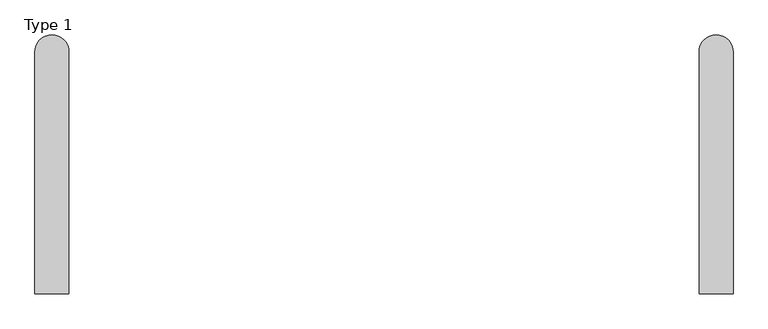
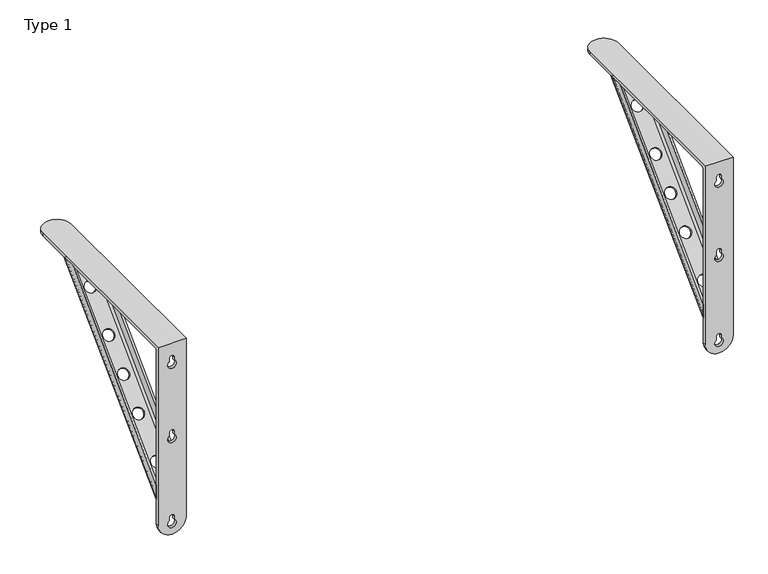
"""IFC4 building model written with IfcOpenShell, lengths in millimetres: furniture geometry, Roros Produkter - Nobel - Bench - Wall - 32650 : Type 1."""

from ifc_helpers import new_model, si_unit, frame, origin, place, context, project, spatial, polyline, circle_curve, ellipse_curve, source, transform, mapped, element, save
from ifc_brep_helpers import plane_surface, cylinder_surface, revolved_surface, advanced_brep


def type_1_918a97a2(model_context):
    return source(origin(), model_context, "Body", "AdvancedBrep", [
        advanced_brep(
        [(-831.9999922, 372.3279231, 368.5858677), (-867.9999922, 372.3279231, 368.5858677), (-872.8988696, 370.9137803, 370.0000106), (-827.1011148, 370.9137803, 370.0000106), (-867.9999922, 83.8283564, 84.3289417), (-871.9999922, 80.9999293, 87.1573688), (-874.9999922, 81.0, 87.1572981), (-867.9999922, 85.9496768, 82.2076214), (-831.9999922, 85.9496768, 82.2076214), (-824.9999922, 80.9999293, 87.1573688), (-827.9999922, 81.0, 87.1572981), (-831.9999922, 83.8283564, 84.3289417), (-867.9999922, 369.4994253, 370.0000106), (-871.9999922, 363.8425711, 370.0000106), (-871.9999922, 338.3867269, 370.0000106), (-871.9999922, 81.0, 112.6132837), (-874.9999922, 338.3867269, 370.0000106), (-874.9999922, 81.0, 112.6132837), (-874.9999922, 363.8425711, 370.0000106), (-860.0951875, 329.9749906, 326.2329352), (-840.0951875, 329.9749906, 326.2329352), (-860.0951875, 273.3273962, 269.5853408), (-840.0951875, 273.3273962, 269.5853408), (-860.0951875, 227.3654554, 223.6234), (-840.0951875, 227.3654554, 223.6234), (-860.0951875, 181.3935431, 177.6514877), (-840.0951875, 181.3935431, 177.6514877), (-860.0951875, 124.8524127, 121.1103573), (-840.0951875, 124.8524127, 121.1103573), (-824.9999922, 363.8425711, 370.0000106), (-824.9999922, 338.3867269, 370.0000106), (-824.9999922, 81.0, 112.6132837), (-827.9999922, 338.3867269, 370.0000106), (-827.9999922, 81.0, 112.6132837), (-827.9999922, 363.8425711, 370.0000106), (-831.9999922, 369.4994253, 370.0000106), (-840.0951875, 327.8536702, 328.3542555), (-860.0951875, 327.8536702, 328.3542555), (-840.0951875, 271.2060759, 271.7066611), (-860.0951875, 271.2060759, 271.7066611), (-840.0951875, 225.2441351, 225.7447204), (-860.0951875, 225.2441351, 225.7447204), (-840.0951875, 179.2722228, 179.772808), (-860.0951875, 179.2722228, 179.772808), (-840.0951875, 122.7310923, 123.2316776), (-860.0951875, 122.7310923, 123.2316776)],
        [
            (0, 1),
            (1, 2, circle_curve(frame((-867.9999922, 367.3781757, 373.5356152), z_axis=(0.0, 0.707106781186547, 0.7071067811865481), x_axis=(0.0, -0.7071067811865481, 0.707106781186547)), 7.0)),
            (2, 3),
            (3, 0, circle_curve(frame((-831.9999922, 367.3781757, 373.5356152), z_axis=(0.0, 0.707106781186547, 0.7071067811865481), x_axis=(0.0, -0.7071067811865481, 0.707106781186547)), 7.0)),
            (4, 5, circle_curve(frame((-867.9999922, 80.9999293, 87.1573688), z_axis=(0.0, 0.707106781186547, 0.7071067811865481), x_axis=(0.0, -0.7071067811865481, 0.707106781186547)), 4.0)),
            (5, 6),
            (6, 7, circle_curve(frame((-867.9999922, 80.9999293, 87.1573688), z_axis=(0.0, -0.707106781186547, -0.7071067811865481), x_axis=(0.0, -0.7071067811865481, 0.707106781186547)), 7.0)),
            (7, 8),
            (8, 9, circle_curve(frame((-831.9999922, 80.9999293, 87.1573688), z_axis=(0.0, -0.707106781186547, -0.7071067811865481), x_axis=(0.0, -0.7071067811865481, 0.707106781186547)), 7.0)),
            (9, 10),
            (10, 11, circle_curve(frame((-831.9999922, 80.9999293, 87.1573688), z_axis=(0.0, 0.707106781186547, 0.7071067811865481), x_axis=(0.0, -0.7071067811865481, 0.707106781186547)), 4.0)),
            (11, 4),
            (4, 12),
            (12, 13, ellipse_curve(frame((-867.9999922, 363.8425711, 370.0000106), z_axis=(0.0, 0.0, 1.0), x_axis=(0.0, -1.0, 0.0)), 5.6568542, 4.0)),
            (13, 5),
            (13, 14),
            (14, 15),
            (15, 5),
            (14, 16),
            (16, 17),
            (17, 15),
            (16, 18),
            (18, 6),
            (6, 17),
            (0, 8),
            (7, 1),
            (19, 20, circle_curve(frame((-850.0951875, 329.9749906, 326.2329352), z_axis=(0.0, -0.7071067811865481, 0.7071067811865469), x_axis=(1.0, 0.0, 0.0)), 10.0)),
            (20, 19, circle_curve(frame((-850.0951875, 329.9749906, 326.2329352), z_axis=(0.0, -0.7071067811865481, 0.7071067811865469), x_axis=(1.0, 0.0, 0.0)), 10.0)),
            (21, 22, circle_curve(frame((-850.0951875, 273.3273962, 269.5853408), z_axis=(0.0, -0.7071067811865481, 0.7071067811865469), x_axis=(1.0, 0.0, 0.0)), 10.0)),
            (22, 21, circle_curve(frame((-850.0951875, 273.3273962, 269.5853408), z_axis=(0.0, -0.7071067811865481, 0.7071067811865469), x_axis=(1.0, 0.0, 0.0)), 10.0)),
            (23, 24, circle_curve(frame((-850.0951875, 227.3654554, 223.6234), z_axis=(0.0, -0.7071067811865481, 0.7071067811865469), x_axis=(1.0, 0.0, 0.0)), 10.0)),
            (24, 23, circle_curve(frame((-850.0951875, 227.3654554, 223.6234), z_axis=(0.0, -0.7071067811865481, 0.7071067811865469), x_axis=(1.0, 0.0, 0.0)), 10.0)),
            (25, 26, circle_curve(frame((-850.0951875, 181.3935431, 177.6514877), z_axis=(0.0, -0.7071067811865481, 0.7071067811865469), x_axis=(1.0, 0.0, 0.0)), 10.0)),
            (26, 25, circle_curve(frame((-850.0951875, 181.3935431, 177.6514877), z_axis=(0.0, -0.7071067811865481, 0.7071067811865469), x_axis=(1.0, 0.0, 0.0)), 10.0)),
            (27, 28, circle_curve(frame((-850.0951875, 124.8524127, 121.1103573), z_axis=(0.0, -0.7071067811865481, 0.7071067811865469), x_axis=(1.0, 0.0, 0.0)), 10.0)),
            (28, 27, circle_curve(frame((-850.0951875, 124.8524127, 121.1103573), z_axis=(0.0, -0.7071067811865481, 0.7071067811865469), x_axis=(1.0, 0.0, 0.0)), 10.0)),
            (3, 29, ellipse_curve(frame((-831.9999922, 363.8425711, 370.0000106), z_axis=(0.0, 0.0, -1.0), x_axis=(0.0, 1.0, 0.0)), 9.8994949, 7.0)),
            (29, 9),
            (29, 30),
            (30, 31),
            (31, 9),
            (30, 32),
            (32, 33),
            (33, 31),
            (32, 34),
            (34, 10),
            (10, 33),
            (34, 35, ellipse_curve(frame((-831.9999922, 363.8425711, 370.0000106), z_axis=(0.0, 0.0, 1.0), x_axis=(0.0, -1.0, 0.0)), 5.6568542, 4.0)),
            (35, 11),
            (35, 12),
            (36, 37, circle_curve(frame((-850.0951875, 327.8536702, 328.3542555), z_axis=(0.0, 0.7071067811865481, -0.7071067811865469), x_axis=(1.0, 0.0, 0.0)), 10.0)),
            (37, 36, circle_curve(frame((-850.0951875, 327.8536702, 328.3542555), z_axis=(0.0, 0.7071067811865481, -0.7071067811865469), x_axis=(1.0, 0.0, 0.0)), 10.0)),
            (38, 39, circle_curve(frame((-850.0951875, 271.2060759, 271.7066611), z_axis=(0.0, 0.7071067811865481, -0.7071067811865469), x_axis=(1.0, 0.0, 0.0)), 10.0)),
            (39, 38, circle_curve(frame((-850.0951875, 271.2060759, 271.7066611), z_axis=(0.0, 0.7071067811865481, -0.7071067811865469), x_axis=(1.0, 0.0, 0.0)), 10.0)),
            (40, 41, circle_curve(frame((-850.0951875, 225.2441351, 225.7447204), z_axis=(0.0, 0.7071067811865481, -0.7071067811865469), x_axis=(1.0, 0.0, 0.0)), 10.0)),
            (41, 40, circle_curve(frame((-850.0951875, 225.2441351, 225.7447204), z_axis=(0.0, 0.7071067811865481, -0.7071067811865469), x_axis=(1.0, 0.0, 0.0)), 10.0)),
            (42, 43, circle_curve(frame((-850.0951875, 179.2722228, 179.772808), z_axis=(0.0, 0.7071067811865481, -0.7071067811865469), x_axis=(1.0, 0.0, 0.0)), 10.0)),
            (43, 42, circle_curve(frame((-850.0951875, 179.2722228, 179.772808), z_axis=(0.0, 0.7071067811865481, -0.7071067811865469), x_axis=(1.0, 0.0, 0.0)), 10.0)),
            (44, 45, circle_curve(frame((-850.0951875, 122.7310923, 123.2316776), z_axis=(0.0, 0.7071067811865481, -0.7071067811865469), x_axis=(1.0, 0.0, 0.0)), 10.0)),
            (45, 44, circle_curve(frame((-850.0951875, 122.7310923, 123.2316776), z_axis=(0.0, 0.7071067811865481, -0.7071067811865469), x_axis=(1.0, 0.0, 0.0)), 10.0)),
            (18, 2, ellipse_curve(frame((-867.9999922, 363.8425711, 370.0000106), z_axis=(0.0, 0.0, -1.0), x_axis=(0.0, 1.0, 0.0)), 9.8994949, 7.0)),
            (36, 20),
            (19, 37),
            (38, 22),
            (21, 39),
            (40, 24),
            (23, 41),
            (42, 26),
            (25, 43),
            (44, 28),
            (27, 45),
        ],
        [
            plane_surface(frame((-831.9998922, 370.2066028, 370.7071881), z_axis=(0.0, 0.707106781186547, 0.7071067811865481), x_axis=(1.0, 0.0, 0.0))),
            plane_surface(frame((-831.9998922, 83.8283564, 84.3289417), z_axis=(0.0, -0.707106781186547, -0.7071067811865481), x_axis=(-1.0, 0.0, 0.0))),
            revolved_surface(polyline([(-867.9999922, 78.1715021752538, 89.98579592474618), (-867.9999922, 363.84257107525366, 375.6568648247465)]), (-867.9999922, 80.9999293, 87.1573688), (0.0, -0.707106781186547, -0.7071067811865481)),
            plane_surface(frame((-871.9999922, 354.6502536, 386.2635373), z_axis=(1.0, 0.0, 0.0), x_axis=(0.0, -0.7071067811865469, -0.7071067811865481))),
            plane_surface(frame((-874.9999922, 354.6502536, 386.2635373), z_axis=(0.0, -0.707106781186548, 0.707106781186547), x_axis=(0.0, -0.707106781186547, -0.707106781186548))),
            plane_surface(frame((-874.9999922, 367.3781757, 373.5356152), z_axis=(-1.0000000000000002, 0.0, 0.0), x_axis=(0.0, -0.707106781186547, -0.7071067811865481))),
            plane_surface(frame((-831.9999922, 372.3279231, 368.5858677), z_axis=(0.0, 0.7071067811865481, -0.7071067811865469), x_axis=(0.0, -0.7071067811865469, -0.7071067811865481))),
            cylinder_surface(frame((-831.9999922, 80.9999293, 87.1573688), z_axis=(0.0, 0.707106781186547, 0.7071067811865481), x_axis=(0.0, -0.7071067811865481, 0.707106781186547)), 7.0),
            plane_surface(frame((-824.9999922, 354.6502536, 386.2635373), z_axis=(1.0, 0.0, 0.0), x_axis=(0.0, -0.707106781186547, -0.707106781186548))),
            plane_surface(frame((-827.9999922, 354.6502536, 386.2635373), z_axis=(0.0, -0.7071067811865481, 0.7071067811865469), x_axis=(0.0, -0.7071067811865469, -0.7071067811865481))),
            plane_surface(frame((-827.9999922, 367.3781757, 373.5356152), z_axis=(-1.0, 0.0, 0.0), x_axis=(0.0, -0.7071067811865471, -0.707106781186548))),
            revolved_surface(polyline([(-831.9999922, 78.1715021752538, 89.98579592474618), (-831.9999922, 363.84257107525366, 375.6568648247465)]), (-831.9999922, 80.9999293, 87.1573688), (0.0, -0.707106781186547, -0.7071067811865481)),
            plane_surface(frame((-867.9999922, 370.2066028, 370.7071881), z_axis=(0.0, -0.7071067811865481, 0.7071067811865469), x_axis=(0.0, -0.7071067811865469, -0.7071067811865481))),
            cylinder_surface(frame((-867.9999922, 80.9999293, 87.1573688), z_axis=(0.0, 0.707106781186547, 0.7071067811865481), x_axis=(0.0, -0.7071067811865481, 0.707106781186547)), 7.0),
            revolved_surface(polyline([(-840.0951875, 329.9749906, 326.2329352), (-840.0951875, 327.85367025, 328.35425555)]), (-850.0951875, 317.3539543, 338.8539715), (0.0, 0.7071067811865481, -0.7071067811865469)),
            revolved_surface(polyline([(-840.0951875, 273.3273962, 269.5853408), (-840.0951875, 271.2060759, 271.7066611)]), (-850.0951875, 273.3273962, 269.5853408), (0.0, 0.7071067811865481, -0.7071067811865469)),
            revolved_surface(polyline([(-840.0951875, 227.3654554, 223.6234), (-840.0951875, 225.24413504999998, 225.74472035)]), (-850.0951875, 227.3654554, 223.6234), (0.0, 0.7071067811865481, -0.7071067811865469)),
            revolved_surface(polyline([(-840.0951875, 181.3935431, 177.6514877), (-840.0951875, 179.27222279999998, 179.77280799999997)]), (-850.0951875, 181.3935431, 177.6514877), (0.0, 0.7071067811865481, -0.7071067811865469)),
            revolved_surface(polyline([(-840.0951875, 124.8524127, 121.1103573), (-840.0951875, 122.73109235, 123.23167765)]), (-850.0951875, 124.8524127, 121.1103573), (0.0, 0.7071067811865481, -0.7071067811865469)),
            plane_surface(frame((-946.6643977, 81.0, 130.0000106), z_axis=(0.0, -1.0, 0.0), x_axis=(1.0, 0.0, 0.0))),
            plane_surface(frame((-946.6643977, 376.8148919, 370.0000106), z_axis=(0.0, 0.0, 1.0), x_axis=(1.0, 0.0, 0.0))),
        ],
        [
            (0, [[1, 2, 3, 4]]),
            (1, [[5, 6, 7, 8, 9, 10, 11, 12]]),
            (2, [[-5, 13, 14, 15]]),
            (3, [[-15, 16, 17, 18]]),
            (4, [[-17, 19, 20, 21]]),
            (5, [[-20, 22, 23, 24]]),
            (6, [[-1, 25, -8, 26], [27, 28], [29, 30], [31, 32], [33, 34], [35, 36]]),
            (7, [[-9, -25, -4, 37, 38]]),
            (8, [[-38, 39, 40, 41]]),
            (9, [[-40, 42, 43, 44]]),
            (10, [[-43, 45, 46, 47]]),
            (11, [[-11, -46, 48, 49]]),
            (12, [[-12, -49, 50, -13], [51, 52], [53, 54], [55, 56], [57, 58], [59, 60]]),
            (13, [[-7, -23, 61, -2, -26]]),
            (14, [[62, -27, 63, -51]]),
            (14, [[-62, -52, -63, -28]]),
            (15, [[64, -29, 65, -53]]),
            (15, [[-64, -54, -65, -30]]),
            (16, [[66, -31, 67, -55]]),
            (16, [[-66, -56, -67, -32]]),
            (17, [[68, -33, 69, -57]]),
            (17, [[-68, -58, -69, -34]]),
            (18, [[70, -35, 71, -59]]),
            (18, [[-70, -60, -71, -36]]),
            (19, [[-6, -18, -21, -24]]),
            (19, [[-10, -41, -44, -47]]),
            (20, [[-3, -61, -22, -19, -16, -14, -50, -48, -45, -42, -39, -37]]),
        ],
    ),
        advanced_brep(
        [(-824.9999922, 81.0, 365.0000106), (-824.9999922, 86.0, 370.0000106), (-824.9999922, 430.9999923, 370.0000106), (-824.9999922, 430.9999923, 375.0000029), (-824.9999922, 76.0, 375.0000029), (-824.9999922, 76.0, 40.0000183), (-824.9999922, 81.0, 40.0000183), (-875.0000075, 86.0, 370.0000106), (-875.0000075, 81.0, 365.0000106), (-875.0000075, 81.0, 40.0000183), (-875.0000075, 76.0, 40.0000183), (-875.0000075, 76.0, 375.0000029), (-875.0000075, 430.9999923, 375.0000029), (-875.0000075, 430.9999923, 370.0000106), (-849.9999998, 81.0, 15.0000106), (-845.7499922, 81.0, 41.1796141), (-845.7499922, 81.0, 47.0000106), (-854.2499922, 81.0, 47.0000106), (-854.2499922, 81.0, 41.1796141), (-845.7499922, 81.0, 201.1796141), (-845.7499922, 81.0, 207.0000106), (-854.2499922, 81.0, 207.0000106), (-854.2499922, 81.0, 201.1796141), (-845.7499922, 81.0, 341.1796141), (-845.7499922, 81.0, 347.0000106), (-854.2499922, 81.0, 347.0000106), (-854.2499922, 81.0, 341.1796141), (-849.9999998, 76.0, 15.0000106), (-845.7499922, 76.0, 47.0000106), (-845.7499922, 76.0, 41.1796141), (-854.2499922, 76.0, 41.1796141), (-854.2499922, 76.0, 47.0000106), (-845.7499922, 76.0, 207.0000106), (-845.7499922, 76.0, 201.1796141), (-854.2499922, 76.0, 201.1796141), (-854.2499922, 76.0, 207.0000106), (-845.7499922, 76.0, 347.0000106), (-845.7499922, 76.0, 341.1796141), (-854.2499922, 76.0, 341.1796141), (-854.2499922, 76.0, 347.0000106), (-849.9999998, 456.0, 375.0000029), (-849.9999998, 456.0, 370.0000106)],
        [
            (0, 1, circle_curve(frame((-824.9999922, 86.0, 365.0000106), z_axis=(-1.0, 0.0, 0.0), x_axis=(0.0, 1.0, 0.0)), 5.0)),
            (1, 2),
            (2, 3),
            (3, 4),
            (4, 5),
            (5, 6),
            (6, 0),
            (7, 8, circle_curve(frame((-875.0000075, 86.0, 365.0000106), z_axis=(1.0, 0.0, 0.0), x_axis=(0.0, 1.0, 0.0)), 5.0)),
            (8, 9),
            (9, 10),
            (10, 11),
            (11, 12),
            (12, 13),
            (13, 7),
            (8, 0),
            (6, 14, circle_curve(frame((-849.9999998, 81.0, 40.0000183), z_axis=(0.0, 1.0, 0.0), x_axis=(1.0, 0.0, 0.0)), 25.0000077)),
            (14, 9, circle_curve(frame((-849.9999998, 81.0, 40.0000183), z_axis=(0.0, 1.0, 0.0), x_axis=(1.0, 0.0, 0.0)), 25.0000077)),
            (15, 16),
            (16, 17, circle_curve(frame((-849.9999922, 81.0, 47.0000106), z_axis=(0.0, -1.0, 0.0), x_axis=(-1.0, 0.0, 0.0)), 4.25)),
            (17, 18),
            (18, 15, circle_curve(frame((-849.9999922, 81.0, 35.0000106), z_axis=(0.0, -1.0, 0.0), x_axis=(0.0, 0.0, -1.0)), 7.5)),
            (19, 20),
            (20, 21, circle_curve(frame((-849.9999922, 81.0, 207.0000106), z_axis=(0.0, -1.0, 0.0), x_axis=(-1.0, 0.0, 0.0)), 4.25)),
            (21, 22),
            (22, 19, circle_curve(frame((-849.9999922, 81.0, 195.0000106), z_axis=(0.0, -1.0, 0.0), x_axis=(0.0, 0.0, -1.0)), 7.5)),
            (23, 24),
            (24, 25, circle_curve(frame((-849.9999922, 81.0, 347.0000106), z_axis=(0.0, -1.0, 0.0), x_axis=(-1.0, 0.0, 0.0)), 4.25)),
            (25, 26),
            (26, 23, circle_curve(frame((-849.9999922, 81.0, 335.0000106), z_axis=(0.0, -1.0, 0.0), x_axis=(0.0, 0.0, -1.0)), 7.5)),
            (4, 11),
            (10, 27, circle_curve(frame((-849.9999998, 76.0, 40.0000183), z_axis=(0.0, -1.0, 0.0), x_axis=(1.0, 0.0, 0.0)), 25.0000077)),
            (27, 5, circle_curve(frame((-849.9999998, 76.0, 40.0000183), z_axis=(0.0, -1.0, 0.0), x_axis=(1.0, 0.0, 0.0)), 25.0000077)),
            (28, 29),
            (29, 30, circle_curve(frame((-849.9999922, 76.0, 35.0000106), z_axis=(0.0, 1.0, 0.0), x_axis=(0.0, 0.0, -1.0)), 7.5)),
            (30, 31),
            (31, 28, circle_curve(frame((-849.9999922, 76.0, 47.0000106), z_axis=(0.0, 1.0, 0.0), x_axis=(-1.0, 0.0, 0.0)), 4.25)),
            (32, 33),
            (33, 34, circle_curve(frame((-849.9999922, 76.0, 195.0000106), z_axis=(0.0, 1.0, 0.0), x_axis=(0.0, 0.0, -1.0)), 7.5)),
            (34, 35),
            (35, 32, circle_curve(frame((-849.9999922, 76.0, 207.0000106), z_axis=(0.0, 1.0, 0.0), x_axis=(-1.0, 0.0, 0.0)), 4.25)),
            (36, 37),
            (37, 38, circle_curve(frame((-849.9999922, 76.0, 335.0000106), z_axis=(0.0, 1.0, 0.0), x_axis=(0.0, 0.0, -1.0)), 7.5)),
            (38, 39),
            (39, 36, circle_curve(frame((-849.9999922, 76.0, 347.0000106), z_axis=(0.0, 1.0, 0.0), x_axis=(-1.0, 0.0, 0.0)), 4.25)),
            (3, 40, circle_curve(frame((-849.9999998, 430.9999923, 375.0000029), z_axis=(0.0, 0.0, 1.0), x_axis=(1.0, 0.0, 0.0)), 25.0000077)),
            (40, 12, circle_curve(frame((-849.9999998, 430.9999923, 375.0000029), z_axis=(0.0, 0.0, 1.0), x_axis=(1.0, 0.0, 0.0)), 25.0000077)),
            (1, 7),
            (13, 41, circle_curve(frame((-849.9999998, 430.9999923, 370.0000106), z_axis=(0.0, 0.0, -1.0), x_axis=(1.0, 0.0, 0.0)), 25.0000077)),
            (41, 2, circle_curve(frame((-849.9999998, 430.9999923, 370.0000106), z_axis=(0.0, 0.0, -1.0), x_axis=(1.0, 0.0, 0.0)), 25.0000077)),
            (28, 16),
            (15, 29),
            (31, 17),
            (30, 18),
            (32, 20),
            (19, 33),
            (35, 21),
            (34, 22),
            (36, 24),
            (23, 37),
            (39, 25),
            (38, 26),
        ],
        [
            plane_surface(frame((-824.9999922, 91.0, 365.0000106), z_axis=(1.0, 0.0, 0.0), x_axis=(0.0, 0.0, -1.0))),
            plane_surface(frame((-875.0000075, 91.0, 365.0000106), z_axis=(-1.0, 0.0, 0.0), x_axis=(0.0, 0.0, 1.0))),
            plane_surface(frame((-824.9999922, 81.0, 15.0000106), z_axis=(0.0, 1.0, 0.0), x_axis=(-1.0, 0.0, 0.0))),
            plane_surface(frame((-824.9999922, 76.0, 375.0000029), z_axis=(0.0, -1.0, 0.0), x_axis=(-1.0, 0.0, 0.0))),
            plane_surface(frame((-824.9999922, 456.0, 375.0000029), z_axis=(0.0, 0.0, 1.0), x_axis=(-1.0, 0.0, 0.0))),
            plane_surface(frame((-824.9999922, 86.0, 370.0000106), z_axis=(0.0, 0.0, -1.0), x_axis=(-1.0, 0.0, 0.0))),
            revolved_surface(polyline([(-875.0000075, 91.0, 365.0000106), (-824.9999922, 91.0, 365.0000106)]), (-875.0000075, 86.0, 365.0000106), (-1.0, 0.0, 0.0)),
            cylinder_surface(frame((-849.9999998, 48.2805207, 40.0000183), z_axis=(0.0, -1.0, 0.0), x_axis=(1.0, 0.0, 0.0)), 25.0000077),
            plane_surface(frame((-845.7499922, 90.1975871, 47.0000106), z_axis=(-1.0, 0.0, 0.0), x_axis=(0.0, -1.0, 0.0))),
            revolved_surface(polyline([(-854.2499922, 81.0, 47.0000106), (-854.2499922, 76.0, 47.0000106)]), (-849.9999922, 270.9999943, 47.0000106), (0.0, 1.0, 0.0)),
            plane_surface(frame((-854.2499922, 90.1975871, 41.1796141), z_axis=(1.0, 0.0, 0.0), x_axis=(0.0, -1.0, 0.0))),
            revolved_surface(polyline([(-849.9999922, 81.0, 27.500010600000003), (-849.9999922, 76.0, 27.500010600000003)]), (-849.9999922, 270.9999943, 35.0000106), (0.0, 1.0, 0.0)),
            plane_surface(frame((-845.7499922, 90.1975871, 207.0000106), z_axis=(-1.0, 0.0, 0.0), x_axis=(0.0, -1.0, 0.0))),
            revolved_surface(polyline([(-854.2499922, 81.0, 207.0000106), (-854.2499922, 76.0, 207.0000106)]), (-849.9999922, 270.9999943, 207.0000106), (0.0, 1.0, 0.0)),
            plane_surface(frame((-854.2499922, 90.1975871, 201.1796141), z_axis=(1.0, 0.0, 0.0), x_axis=(0.0, -1.0, 0.0))),
            revolved_surface(polyline([(-849.9999922, 81.0, 187.5000106), (-849.9999922, 76.0, 187.5000106)]), (-849.9999922, 270.9999943, 195.0000106), (0.0, 1.0, 0.0)),
            plane_surface(frame((-845.7499922, 90.1975871, 347.0000106), z_axis=(-1.0, 0.0, 0.0), x_axis=(0.0, -1.0, 0.0))),
            revolved_surface(polyline([(-854.2499922, 81.0, 347.0000106), (-854.2499922, 76.0, 347.0000106)]), (-849.9999922, 270.9999943, 347.0000106), (0.0, 1.0, 0.0)),
            plane_surface(frame((-854.2499922, 90.1975871, 341.1796141), z_axis=(1.0, 0.0, 0.0), x_axis=(0.0, -1.0, 0.0))),
            revolved_surface(polyline([(-849.9999922, 81.0, 327.5000106), (-849.9999922, 76.0, 327.5000106)]), (-849.9999922, 270.9999943, 335.0000106), (0.0, 1.0, 0.0)),
            cylinder_surface(frame((-849.9999998, 430.9999923, 447.0), z_axis=(0.0, 0.0, -1.0), x_axis=(1.0, 0.0, 0.0)), 25.0000077),
        ],
        [
            (0, [[1, 2, 3, 4, 5, 6, 7]]),
            (1, [[8, 9, 10, 11, 12, 13, 14]]),
            (2, [[15, -7, 16, 17, -9], [18, 19, 20, 21], [22, 23, 24, 25], [26, 27, 28, 29]]),
            (3, [[30, -11, 31, 32, -5], [33, 34, 35, 36], [37, 38, 39, 40], [41, 42, 43, 44]]),
            (4, [[-30, -4, 45, 46, -12]]),
            (5, [[47, -14, 48, 49, -2]]),
            (6, [[-1, -15, -8, -47]]),
            (7, [[-6, -32, -31, -10, -17, -16]]),
            (8, [[50, -18, 51, -33]]),
            (9, [[-50, -36, 52, -19]]),
            (10, [[-52, -35, 53, -20]]),
            (11, [[-53, -34, -51, -21]]),
            (12, [[54, -22, 55, -37]]),
            (13, [[-54, -40, 56, -23]]),
            (14, [[-56, -39, 57, -24]]),
            (15, [[-57, -38, -55, -25]]),
            (16, [[58, -26, 59, -41]]),
            (17, [[-58, -44, 60, -27]]),
            (18, [[-60, -43, 61, -28]]),
            (19, [[-61, -42, -59, -29]]),
            (20, [[-3, -49, -48, -13, -46, -45]]),
        ],
    ),
        advanced_brep(
        [(142.9999922, 372.3279231, 368.5858677), (106.9999922, 372.3279231, 368.5858677), (102.1011148, 370.9137803, 370.0000106), (147.8988696, 370.9137803, 370.0000106), (106.9999922, 83.8283564, 84.3289417), (102.9999922, 80.9999293, 87.1573688), (99.9999922, 81.0, 87.1572981), (106.9999922, 85.9496768, 82.2076214), (142.9999922, 85.9496768, 82.2076214), (149.9999922, 80.9999293, 87.1573688), (146.9999922, 81.0, 87.1572981), (142.9999922, 83.8283564, 84.3289417), (106.9999922, 369.4994253, 370.0000106), (102.9999922, 363.8425711, 370.0000106), (102.9999922, 338.3867269, 370.0000106), (102.9999922, 81.0, 112.6132837), (99.9999922, 338.3867269, 370.0000106), (99.9999922, 81.0, 112.6132837), (99.9999922, 363.8425711, 370.0000106), (114.9047969, 329.9749906, 326.2329352), (134.9047969, 329.9749906, 326.2329352), (114.9047969, 273.3273962, 269.5853408), (134.9047969, 273.3273962, 269.5853408), (114.9047969, 227.3654554, 223.6234), (134.9047969, 227.3654554, 223.6234), (114.9047969, 181.3935431, 177.6514877), (134.9047969, 181.3935431, 177.6514877), (114.9047969, 124.8524127, 121.1103573), (134.9047969, 124.8524127, 121.1103573), (149.9999922, 363.8425711, 370.0000106), (149.9999922, 338.3867269, 370.0000106), (149.9999922, 81.0, 112.6132837), (146.9999922, 338.3867269, 370.0000106), (146.9999922, 81.0, 112.6132837), (146.9999922, 363.8425711, 370.0000106), (142.9999922, 369.4994253, 370.0000106), (134.9047969, 327.8536702, 328.3542555), (114.9047969, 327.8536702, 328.3542555), (134.9047969, 271.2060759, 271.7066611), (114.9047969, 271.2060759, 271.7066611), (134.9047969, 225.2441351, 225.7447204), (114.9047969, 225.2441351, 225.7447204), (134.9047969, 179.2722228, 179.772808), (114.9047969, 179.2722228, 179.772808), (134.9047969, 122.7310923, 123.2316776), (114.9047969, 122.7310923, 123.2316776)],
        [
            (0, 1),
            (1, 2, circle_curve(frame((106.9999922, 367.3781757, 373.5356152), z_axis=(0.0, 0.707106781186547, 0.7071067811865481), x_axis=(0.0, -0.7071067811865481, 0.707106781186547)), 7.0)),
            (2, 3),
            (3, 0, circle_curve(frame((142.9999922, 367.3781757, 373.5356152), z_axis=(0.0, 0.707106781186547, 0.7071067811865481), x_axis=(0.0, -0.7071067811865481, 0.707106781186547)), 7.0)),
            (4, 5, circle_curve(frame((106.9999922, 80.9999293, 87.1573688), z_axis=(0.0, 0.707106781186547, 0.7071067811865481), x_axis=(0.0, -0.7071067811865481, 0.707106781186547)), 4.0)),
            (5, 6),
            (6, 7, circle_curve(frame((106.9999922, 80.9999293, 87.1573688), z_axis=(0.0, -0.707106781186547, -0.7071067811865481), x_axis=(0.0, -0.7071067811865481, 0.707106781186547)), 7.0)),
            (7, 8),
            (8, 9, circle_curve(frame((142.9999922, 80.9999293, 87.1573688), z_axis=(0.0, -0.707106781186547, -0.7071067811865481), x_axis=(0.0, -0.7071067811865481, 0.707106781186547)), 7.0)),
            (9, 10),
            (10, 11, circle_curve(frame((142.9999922, 80.9999293, 87.1573688), z_axis=(0.0, 0.707106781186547, 0.7071067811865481), x_axis=(0.0, -0.7071067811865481, 0.707106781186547)), 4.0)),
            (11, 4),
            (4, 12),
            (12, 13, ellipse_curve(frame((106.9999922, 363.8425711, 370.0000106), z_axis=(0.0, 0.0, 1.0), x_axis=(0.0, -1.0, 0.0)), 5.6568542, 4.0)),
            (13, 5),
            (13, 14),
            (14, 15),
            (15, 5),
            (14, 16),
            (16, 17),
            (17, 15),
            (16, 18),
            (18, 6),
            (6, 17),
            (0, 8),
            (7, 1),
            (19, 20, circle_curve(frame((124.9047969, 329.9749906, 326.2329352), z_axis=(0.0, -0.7071067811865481, 0.7071067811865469), x_axis=(1.0, 0.0, 0.0)), 10.0)),
            (20, 19, circle_curve(frame((124.9047969, 329.9749906, 326.2329352), z_axis=(0.0, -0.7071067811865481, 0.7071067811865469), x_axis=(1.0, 0.0, 0.0)), 10.0)),
            (21, 22, circle_curve(frame((124.9047969, 273.3273962, 269.5853408), z_axis=(0.0, -0.7071067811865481, 0.7071067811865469), x_axis=(1.0, 0.0, 0.0)), 10.0)),
            (22, 21, circle_curve(frame((124.9047969, 273.3273962, 269.5853408), z_axis=(0.0, -0.7071067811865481, 0.7071067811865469), x_axis=(1.0, 0.0, 0.0)), 10.0)),
            (23, 24, circle_curve(frame((124.9047969, 227.3654554, 223.6234), z_axis=(0.0, -0.7071067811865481, 0.7071067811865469), x_axis=(1.0, 0.0, 0.0)), 10.0)),
            (24, 23, circle_curve(frame((124.9047969, 227.3654554, 223.6234), z_axis=(0.0, -0.7071067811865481, 0.7071067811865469), x_axis=(1.0, 0.0, 0.0)), 10.0)),
            (25, 26, circle_curve(frame((124.9047969, 181.3935431, 177.6514877), z_axis=(0.0, -0.7071067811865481, 0.7071067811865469), x_axis=(1.0, 0.0, 0.0)), 10.0)),
            (26, 25, circle_curve(frame((124.9047969, 181.3935431, 177.6514877), z_axis=(0.0, -0.7071067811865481, 0.7071067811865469), x_axis=(1.0, 0.0, 0.0)), 10.0)),
            (27, 28, circle_curve(frame((124.9047969, 124.8524127, 121.1103573), z_axis=(0.0, -0.7071067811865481, 0.7071067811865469), x_axis=(1.0, 0.0, 0.0)), 10.0)),
            (28, 27, circle_curve(frame((124.9047969, 124.8524127, 121.1103573), z_axis=(0.0, -0.7071067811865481, 0.7071067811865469), x_axis=(1.0, 0.0, 0.0)), 10.0)),
            (3, 29, ellipse_curve(frame((142.9999922, 363.8425711, 370.0000106), z_axis=(0.0, 0.0, -1.0), x_axis=(0.0, 1.0, 0.0)), 9.8994949, 7.0)),
            (29, 9),
            (29, 30),
            (30, 31),
            (31, 9),
            (30, 32),
            (32, 33),
            (33, 31),
            (32, 34),
            (34, 10),
            (10, 33),
            (34, 35, ellipse_curve(frame((142.9999922, 363.8425711, 370.0000106), z_axis=(0.0, 0.0, 1.0), x_axis=(0.0, -1.0, 0.0)), 5.6568542, 4.0)),
            (35, 11),
            (35, 12),
            (36, 37, circle_curve(frame((124.9047969, 327.8536702, 328.3542555), z_axis=(0.0, 0.7071067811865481, -0.7071067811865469), x_axis=(1.0, 0.0, 0.0)), 10.0)),
            (37, 36, circle_curve(frame((124.9047969, 327.8536702, 328.3542555), z_axis=(0.0, 0.7071067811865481, -0.7071067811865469), x_axis=(1.0, 0.0, 0.0)), 10.0)),
            (38, 39, circle_curve(frame((124.9047969, 271.2060759, 271.7066611), z_axis=(0.0, 0.7071067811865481, -0.7071067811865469), x_axis=(1.0, 0.0, 0.0)), 10.0)),
            (39, 38, circle_curve(frame((124.9047969, 271.2060759, 271.7066611), z_axis=(0.0, 0.7071067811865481, -0.7071067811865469), x_axis=(1.0, 0.0, 0.0)), 10.0)),
            (40, 41, circle_curve(frame((124.9047969, 225.2441351, 225.7447204), z_axis=(0.0, 0.7071067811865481, -0.7071067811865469), x_axis=(1.0, 0.0, 0.0)), 10.0)),
            (41, 40, circle_curve(frame((124.9047969, 225.2441351, 225.7447204), z_axis=(0.0, 0.7071067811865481, -0.7071067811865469), x_axis=(1.0, 0.0, 0.0)), 10.0)),
            (42, 43, circle_curve(frame((124.9047969, 179.2722228, 179.772808), z_axis=(0.0, 0.7071067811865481, -0.7071067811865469), x_axis=(1.0, 0.0, 0.0)), 10.0)),
            (43, 42, circle_curve(frame((124.9047969, 179.2722228, 179.772808), z_axis=(0.0, 0.7071067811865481, -0.7071067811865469), x_axis=(1.0, 0.0, 0.0)), 10.0)),
            (44, 45, circle_curve(frame((124.9047969, 122.7310923, 123.2316776), z_axis=(0.0, 0.7071067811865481, -0.7071067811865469), x_axis=(1.0, 0.0, 0.0)), 10.0)),
            (45, 44, circle_curve(frame((124.9047969, 122.7310923, 123.2316776), z_axis=(0.0, 0.7071067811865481, -0.7071067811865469), x_axis=(1.0, 0.0, 0.0)), 10.0)),
            (18, 2, ellipse_curve(frame((106.9999922, 363.8425711, 370.0000106), z_axis=(0.0, 0.0, -1.0), x_axis=(0.0, 1.0, 0.0)), 9.8994949, 7.0)),
            (36, 20),
            (19, 37),
            (38, 22),
            (21, 39),
            (40, 24),
            (23, 41),
            (42, 26),
            (25, 43),
            (44, 28),
            (27, 45),
        ],
        [
            plane_surface(frame((143.0000922, 370.2066028, 370.7071881), z_axis=(0.0, 0.707106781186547, 0.7071067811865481), x_axis=(1.0, 0.0, 0.0))),
            plane_surface(frame((143.0000922, 83.8283564, 84.3289417), z_axis=(0.0, -0.707106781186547, -0.7071067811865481), x_axis=(-1.0, 0.0, 0.0))),
            revolved_surface(polyline([(106.9999922, 78.1715021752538, 89.98579592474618), (106.9999922, 363.84257107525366, 375.6568648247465)]), (106.9999922, 80.9999293, 87.1573688), (0.0, -0.707106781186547, -0.7071067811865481)),
            plane_surface(frame((102.9999922, 354.6502536, 386.2635373), z_axis=(1.0, 0.0, 0.0), x_axis=(0.0, -0.7071067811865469, -0.7071067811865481))),
            plane_surface(frame((99.9999922, 354.6502536, 386.2635373), z_axis=(0.0, -0.7071067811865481, 0.707106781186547), x_axis=(0.0, -0.707106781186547, -0.7071067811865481))),
            plane_surface(frame((99.9999922, 367.3781757, 373.5356152), z_axis=(-1.0000000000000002, 0.0, 0.0), x_axis=(0.0, -0.707106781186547, -0.7071067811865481))),
            plane_surface(frame((142.9999922, 372.3279231, 368.5858677), z_axis=(0.0, 0.7071067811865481, -0.7071067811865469), x_axis=(0.0, -0.7071067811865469, -0.7071067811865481))),
            cylinder_surface(frame((142.9999922, 80.9999293, 87.1573688), z_axis=(0.0, 0.707106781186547, 0.7071067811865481), x_axis=(0.0, -0.7071067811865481, 0.707106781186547)), 7.0),
            plane_surface(frame((149.9999922, 354.6502536, 386.2635373), z_axis=(1.0, 0.0, 0.0), x_axis=(0.0, -0.707106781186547, -0.707106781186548))),
            plane_surface(frame((146.9999922, 354.6502536, 386.2635373), z_axis=(0.0, -0.7071067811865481, 0.7071067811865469), x_axis=(0.0, -0.7071067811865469, -0.7071067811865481))),
            plane_surface(frame((146.9999922, 367.3781757, 373.5356152), z_axis=(-1.0, 0.0, 0.0), x_axis=(0.0, -0.7071067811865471, -0.707106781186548))),
            revolved_surface(polyline([(142.9999922, 78.1715021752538, 89.98579592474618), (142.9999922, 363.84257107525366, 375.6568648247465)]), (142.9999922, 80.9999293, 87.1573688), (0.0, -0.707106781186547, -0.7071067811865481)),
            plane_surface(frame((106.9999922, 370.2066028, 370.7071881), z_axis=(0.0, -0.7071067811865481, 0.7071067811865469), x_axis=(0.0, -0.7071067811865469, -0.7071067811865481))),
            cylinder_surface(frame((106.9999922, 80.9999293, 87.1573688), z_axis=(0.0, 0.707106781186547, 0.7071067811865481), x_axis=(0.0, -0.7071067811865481, 0.707106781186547)), 7.0),
            revolved_surface(polyline([(134.9047969, 329.9749906, 326.2329352), (134.9047969, 327.85367025, 328.35425555)]), (124.9047969, 317.3539543, 338.8539715), (0.0, 0.7071067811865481, -0.7071067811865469)),
            revolved_surface(polyline([(134.9047969, 273.3273962, 269.5853408), (134.9047969, 271.2060759, 271.7066611)]), (124.9047969, 273.3273962, 269.5853408), (0.0, 0.7071067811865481, -0.7071067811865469)),
            revolved_surface(polyline([(134.9047969, 227.3654554, 223.6234), (134.9047969, 225.24413504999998, 225.74472035)]), (124.9047969, 227.3654554, 223.6234), (0.0, 0.7071067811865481, -0.7071067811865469)),
            revolved_surface(polyline([(134.9047969, 181.3935431, 177.6514877), (134.9047969, 179.27222279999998, 179.77280799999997)]), (124.9047969, 181.3935431, 177.6514877), (0.0, 0.7071067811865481, -0.7071067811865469)),
            revolved_surface(polyline([(134.9047969, 124.8524127, 121.1103573), (134.9047969, 122.73109235, 123.23167765)]), (124.9047969, 124.8524127, 121.1103573), (0.0, 0.7071067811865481, -0.7071067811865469)),
            plane_surface(frame((-946.6643977, 81.0, 130.0000106), z_axis=(0.0, -1.0, 0.0), x_axis=(1.0, 0.0, 0.0))),
            plane_surface(frame((-946.6643977, 376.8148919, 370.0000106), z_axis=(0.0, 0.0, 1.0), x_axis=(1.0, 0.0, 0.0))),
        ],
        [
            (0, [[1, 2, 3, 4]]),
            (1, [[5, 6, 7, 8, 9, 10, 11, 12]]),
            (2, [[-5, 13, 14, 15]]),
            (3, [[-15, 16, 17, 18]]),
            (4, [[-17, 19, 20, 21]]),
            (5, [[-20, 22, 23, 24]]),
            (6, [[-1, 25, -8, 26], [27, 28], [29, 30], [31, 32], [33, 34], [35, 36]]),
            (7, [[-9, -25, -4, 37, 38]]),
            (8, [[-38, 39, 40, 41]]),
            (9, [[-40, 42, 43, 44]]),
            (10, [[-43, 45, 46, 47]]),
            (11, [[-11, -46, 48, 49]]),
            (12, [[-12, -49, 50, -13], [51, 52], [53, 54], [55, 56], [57, 58], [59, 60]]),
            (13, [[-7, -23, 61, -2, -26]]),
            (14, [[62, -27, 63, -51]]),
            (14, [[-62, -52, -63, -28]]),
            (15, [[64, -29, 65, -53]]),
            (15, [[-64, -54, -65, -30]]),
            (16, [[66, -31, 67, -55]]),
            (16, [[-66, -56, -67, -32]]),
            (17, [[68, -33, 69, -57]]),
            (17, [[-68, -58, -69, -34]]),
            (18, [[70, -35, 71, -59]]),
            (18, [[-70, -60, -71, -36]]),
            (19, [[-6, -18, -21, -24]]),
            (19, [[-10, -41, -44, -47]]),
            (20, [[-3, -61, -22, -19, -16, -14, -50, -48, -45, -42, -39, -37]]),
        ],
    ),
        advanced_brep(
        [(149.9999922, 81.0, 365.0000106), (149.9999922, 86.0, 370.0000106), (149.9999922, 430.9999923, 370.0000106), (149.9999922, 430.9999923, 375.0000029), (149.9999922, 76.0, 375.0000029), (149.9999922, 76.0, 40.0000183), (149.9999922, 81.0, 40.0000183), (99.9999768, 86.0, 370.0000106), (99.9999768, 81.0, 365.0000106), (99.9999768, 81.0, 40.0000183), (99.9999768, 76.0, 40.0000183), (99.9999768, 76.0, 375.0000029), (99.9999768, 430.9999923, 375.0000029), (99.9999768, 430.9999923, 370.0000106), (124.9999845, 81.0, 15.0000106), (129.2499922, 81.0, 41.1796141), (129.2499922, 81.0, 47.0000106), (120.7499922, 81.0, 47.0000106), (120.7499922, 81.0, 41.1796141), (129.2499922, 81.0, 201.1796141), (129.2499922, 81.0, 207.0000106), (120.7499922, 81.0, 207.0000106), (120.7499922, 81.0, 201.1796141), (129.2499922, 81.0, 341.1796141), (129.2499922, 81.0, 347.0000106), (120.7499922, 81.0, 347.0000106), (120.7499922, 81.0, 341.1796141), (124.9999845, 76.0, 15.0000106), (129.2499922, 76.0, 47.0000106), (129.2499922, 76.0, 41.1796141), (120.7499922, 76.0, 41.1796141), (120.7499922, 76.0, 47.0000106), (129.2499922, 76.0, 207.0000106), (129.2499922, 76.0, 201.1796141), (120.7499922, 76.0, 201.1796141), (120.7499922, 76.0, 207.0000106), (129.2499922, 76.0, 347.0000106), (129.2499922, 76.0, 341.1796141), (120.7499922, 76.0, 341.1796141), (120.7499922, 76.0, 347.0000106), (124.9999845, 456.0, 375.0000029), (124.9999845, 456.0, 370.0000106)],
        [
            (0, 1, circle_curve(frame((149.9999922, 86.0, 365.0000106), z_axis=(-1.0, 0.0, 0.0), x_axis=(0.0, 1.0, 0.0)), 5.0)),
            (1, 2),
            (2, 3),
            (3, 4),
            (4, 5),
            (5, 6),
            (6, 0),
            (7, 8, circle_curve(frame((99.9999768, 86.0, 365.0000106), z_axis=(1.0, 0.0, 0.0), x_axis=(0.0, 1.0, 0.0)), 5.0)),
            (8, 9),
            (9, 10),
            (10, 11),
            (11, 12),
            (12, 13),
            (13, 7),
            (8, 0),
            (6, 14, circle_curve(frame((124.9999845, 81.0, 40.0000183), z_axis=(0.0, 1.0, 0.0), x_axis=(1.0, 0.0, 0.0)), 25.0000077)),
            (14, 9, circle_curve(frame((124.9999845, 81.0, 40.0000183), z_axis=(0.0, 1.0, 0.0), x_axis=(1.0, 0.0, 0.0)), 25.0000077)),
            (15, 16),
            (16, 17, circle_curve(frame((124.9999922, 81.0, 47.0000106), z_axis=(0.0, -1.0, 0.0), x_axis=(-1.0, 0.0, 0.0)), 4.25)),
            (17, 18),
            (18, 15, circle_curve(frame((124.9999922, 81.0, 35.0000106), z_axis=(0.0, -1.0, 0.0), x_axis=(0.0, 0.0, -1.0)), 7.5)),
            (19, 20),
            (20, 21, circle_curve(frame((124.9999922, 81.0, 207.0000106), z_axis=(0.0, -1.0, 0.0), x_axis=(-1.0, 0.0, 0.0)), 4.25)),
            (21, 22),
            (22, 19, circle_curve(frame((124.9999922, 81.0, 195.0000106), z_axis=(0.0, -1.0, 0.0), x_axis=(0.0, 0.0, -1.0)), 7.5)),
            (23, 24),
            (24, 25, circle_curve(frame((124.9999922, 81.0, 347.0000106), z_axis=(0.0, -1.0, 0.0), x_axis=(-1.0, 0.0, 0.0)), 4.25)),
            (25, 26),
            (26, 23, circle_curve(frame((124.9999922, 81.0, 335.0000106), z_axis=(0.0, -1.0, 0.0), x_axis=(0.0, 0.0, -1.0)), 7.5)),
            (4, 11),
            (10, 27, circle_curve(frame((124.9999845, 76.0, 40.0000183), z_axis=(0.0, -1.0, 0.0), x_axis=(1.0, 0.0, 0.0)), 25.0000077)),
            (27, 5, circle_curve(frame((124.9999845, 76.0, 40.0000183), z_axis=(0.0, -1.0, 0.0), x_axis=(1.0, 0.0, 0.0)), 25.0000077)),
            (28, 29),
            (29, 30, circle_curve(frame((124.9999922, 76.0, 35.0000106), z_axis=(0.0, 1.0, 0.0), x_axis=(0.0, 0.0, -1.0)), 7.5)),
            (30, 31),
            (31, 28, circle_curve(frame((124.9999922, 76.0, 47.0000106), z_axis=(0.0, 1.0, 0.0), x_axis=(-1.0, 0.0, 0.0)), 4.25)),
            (32, 33),
            (33, 34, circle_curve(frame((124.9999922, 76.0, 195.0000106), z_axis=(0.0, 1.0, 0.0), x_axis=(0.0, 0.0, -1.0)), 7.5)),
            (34, 35),
            (35, 32, circle_curve(frame((124.9999922, 76.0, 207.0000106), z_axis=(0.0, 1.0, 0.0), x_axis=(-1.0, 0.0, 0.0)), 4.25)),
            (36, 37),
            (37, 38, circle_curve(frame((124.9999922, 76.0, 335.0000106), z_axis=(0.0, 1.0, 0.0), x_axis=(0.0, 0.0, -1.0)), 7.5)),
            (38, 39),
            (39, 36, circle_curve(frame((124.9999922, 76.0, 347.0000106), z_axis=(0.0, 1.0, 0.0), x_axis=(-1.0, 0.0, 0.0)), 4.25)),
            (3, 40, circle_curve(frame((124.9999845, 430.9999923, 375.0000029), z_axis=(0.0, 0.0, 1.0), x_axis=(1.0, 0.0, 0.0)), 25.0000077)),
            (40, 12, circle_curve(frame((124.9999845, 430.9999923, 375.0000029), z_axis=(0.0, 0.0, 1.0), x_axis=(1.0, 0.0, 0.0)), 25.0000077)),
            (1, 7),
            (13, 41, circle_curve(frame((124.9999845, 430.9999923, 370.0000106), z_axis=(0.0, 0.0, -1.0), x_axis=(1.0, 0.0, 0.0)), 25.0000077)),
            (41, 2, circle_curve(frame((124.9999845, 430.9999923, 370.0000106), z_axis=(0.0, 0.0, -1.0), x_axis=(1.0, 0.0, 0.0)), 25.0000077)),
            (28, 16),
            (15, 29),
            (31, 17),
            (30, 18),
            (32, 20),
            (19, 33),
            (35, 21),
            (34, 22),
            (36, 24),
            (23, 37),
            (39, 25),
            (38, 26),
        ],
        [
            plane_surface(frame((149.9999922, 91.0, 365.0000106), z_axis=(1.0, 0.0, 0.0), x_axis=(0.0, 0.0, -1.0))),
            plane_surface(frame((99.9999768, 91.0, 365.0000106), z_axis=(-1.0, 0.0, 0.0), x_axis=(0.0, 0.0, 1.0))),
            plane_surface(frame((149.9999922, 81.0, 15.0000106), z_axis=(0.0, 1.0, 0.0), x_axis=(-1.0, 0.0, 0.0))),
            plane_surface(frame((149.9999922, 76.0, 375.0000029), z_axis=(0.0, -1.0, 0.0), x_axis=(-1.0, 0.0, 0.0))),
            plane_surface(frame((149.9999922, 456.0, 375.0000029), z_axis=(0.0, 0.0, 1.0), x_axis=(-1.0, 0.0, 0.0))),
            plane_surface(frame((149.9999922, 86.0, 370.0000106), z_axis=(0.0, 0.0, -1.0), x_axis=(-1.0, 0.0, 0.0))),
            revolved_surface(polyline([(99.9999768, 91.0, 365.0000106), (149.9999922, 91.0, 365.0000106)]), (99.9999768, 86.0, 365.0000106), (-1.0, 0.0, 0.0)),
            cylinder_surface(frame((124.9999845, 48.2805207, 40.0000183), z_axis=(0.0, -1.0, 0.0), x_axis=(1.0, 0.0, 0.0)), 25.0000077),
            plane_surface(frame((129.2499922, 90.1975871, 47.0000106), z_axis=(-1.0, 0.0, 0.0), x_axis=(0.0, -1.0, 0.0))),
            revolved_surface(polyline([(120.7499922, 81.0, 47.0000106), (120.7499922, 76.0, 47.0000106)]), (124.9999922, 270.9999943, 47.0000106), (0.0, 1.0, 0.0)),
            plane_surface(frame((120.7499922, 90.1975871, 41.1796141), z_axis=(1.0, 0.0, 0.0), x_axis=(0.0, -1.0, 0.0))),
            revolved_surface(polyline([(124.9999922, 81.0, 27.500010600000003), (124.9999922, 76.0, 27.500010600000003)]), (124.9999922, 270.9999943, 35.0000106), (0.0, 1.0, 0.0)),
            plane_surface(frame((129.2499922, 90.1975871, 207.0000106), z_axis=(-1.0, 0.0, 0.0), x_axis=(0.0, -1.0, 0.0))),
            revolved_surface(polyline([(120.7499922, 81.0, 207.0000106), (120.7499922, 76.0, 207.0000106)]), (124.9999922, 270.9999943, 207.0000106), (0.0, 1.0, 0.0)),
            plane_surface(frame((120.7499922, 90.1975871, 201.1796141), z_axis=(1.0, 0.0, 0.0), x_axis=(0.0, -1.0, 0.0))),
            revolved_surface(polyline([(124.9999922, 81.0, 187.5000106), (124.9999922, 76.0, 187.5000106)]), (124.9999922, 270.9999943, 195.0000106), (0.0, 1.0, 0.0)),
            plane_surface(frame((129.2499922, 90.1975871, 347.0000106), z_axis=(-1.0, 0.0, 0.0), x_axis=(0.0, -1.0, 0.0))),
            revolved_surface(polyline([(120.7499922, 81.0, 347.0000106), (120.7499922, 76.0, 347.0000106)]), (124.9999922, 270.9999943, 347.0000106), (0.0, 1.0, 0.0)),
            plane_surface(frame((120.7499922, 90.1975871, 341.1796141), z_axis=(1.0, 0.0, 0.0), x_axis=(0.0, -1.0, 0.0))),
            revolved_surface(polyline([(124.9999922, 81.0, 327.5000106), (124.9999922, 76.0, 327.5000106)]), (124.9999922, 270.9999943, 335.0000106), (0.0, 1.0, 0.0)),
            cylinder_surface(frame((124.9999845, 430.9999923, 447.0), z_axis=(0.0, 0.0, -1.0), x_axis=(1.0, 0.0, 0.0)), 25.0000077),
        ],
        [
            (0, [[1, 2, 3, 4, 5, 6, 7]]),
            (1, [[8, 9, 10, 11, 12, 13, 14]]),
            (2, [[15, -7, 16, 17, -9], [18, 19, 20, 21], [22, 23, 24, 25], [26, 27, 28, 29]]),
            (3, [[30, -11, 31, 32, -5], [33, 34, 35, 36], [37, 38, 39, 40], [41, 42, 43, 44]]),
            (4, [[-30, -4, 45, 46, -12]]),
            (5, [[47, -14, 48, 49, -2]]),
            (6, [[-1, -15, -8, -47]]),
            (7, [[-6, -32, -31, -10, -17, -16]]),
            (8, [[50, -18, 51, -33]]),
            (9, [[-50, -36, 52, -19]]),
            (10, [[-52, -35, 53, -20]]),
            (11, [[-53, -34, -51, -21]]),
            (12, [[54, -22, 55, -37]]),
            (13, [[-54, -40, 56, -23]]),
            (14, [[-56, -39, 57, -24]]),
            (15, [[-57, -38, -55, -25]]),
            (16, [[58, -26, 59, -41]]),
            (17, [[-58, -44, 60, -27]]),
            (18, [[-60, -43, 61, -28]]),
            (19, [[-61, -42, -59, -29]]),
            (20, [[-3, -49, -48, -13, -46, -45]]),
        ],
    ),
    ])


if __name__ == "__main__":
    model = new_model("IFC4")
    model_context = context("Model", 3, world=origin())
    ifc_project = project(units=[si_unit("LENGTHUNIT", "METRE", prefix="MILLI")], contexts=[model_context])
    site = spatial("IfcSite", under=ifc_project)
    building = spatial("IfcBuilding", under=site)
    placement = place(None, origin())
    type_1_shape = type_1_918a97a2(model_context)
    element("IfcFurniture", 1, ObjectType="Roros Produkter - Nobel - Bench - Wall - 32650 : Type 1", at=placement, inside=building, context=model_context, shape_type="MappedRepresentation", body=[
        mapped(type_1_shape, transform((0.0, 0.0, 0.0), x_axis=(1.0, 0.0, 0.0), y_axis=(0.0, 1.0, 0.0), z_axis=(0.0, 0.0, 1.0))),
    ])
    save(model, "model.ifc")
